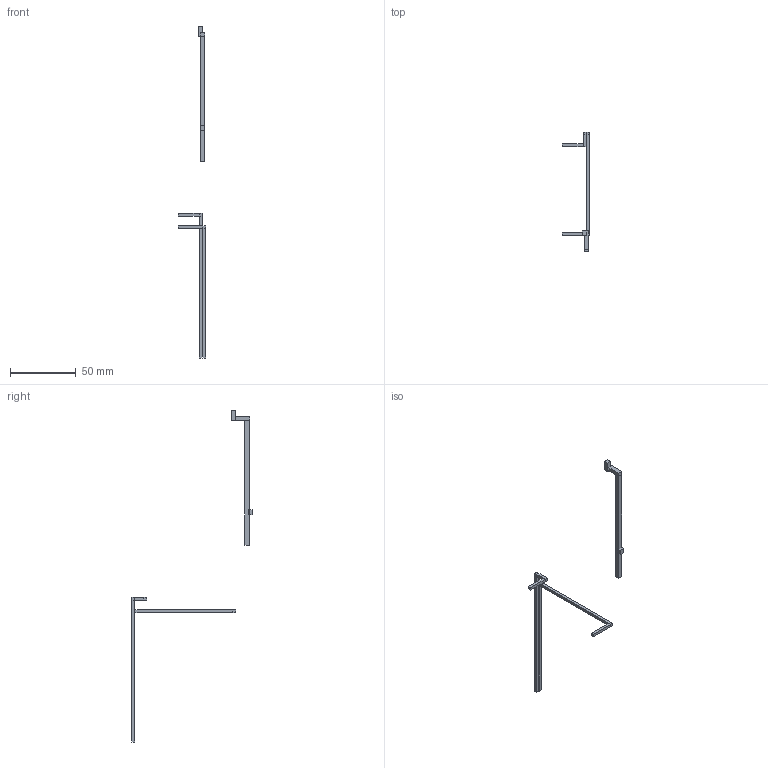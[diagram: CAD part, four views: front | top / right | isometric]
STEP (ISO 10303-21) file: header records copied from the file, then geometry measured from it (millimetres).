
FILE_DESCRIPTION(('Open CASCADE Model'),'2;1');
FILE_NAME('rf_coax','2026-08-12T02:42:46',('Author'),('Open CASCADE'), 'Open CASCADE STEP processor 7.9','build123d','Unknown');
FILE_SCHEMA(('AUTOMOTIVE_DESIGN { 1 0 10303 214 1 1 1 1 }'));
Length unit declared in the file: millimetre
Products named in the file (11): rf_coax; COMPOUND
Assembly tree (10 placements, depth 2):
  rf_coax
    COMPOUND
    COMPOUND
    COMPOUND
    COMPOUND
    COMPOUND
    COMPOUND
    COMPOUND
    COMPOUND
    COMPOUND
    COMPOUND
Bounding box: 20.8 x 91.5 x 253 mm (x, y, z)
Volume: 3075.1 mm3; surface area: 4778.4 mm2
Topology: 10 solids, 10 shells, 60 faces, 120 edges, 80 vertices
Faces by surface type: plane 60
Entity records: 3256 total; most frequent: CARTESIAN_POINT 511, DIRECTION 502, LINE 360, VECTOR 360, ORIENTED_EDGE 240, PCURVE 240, DEFINITIONAL_REPRESENTATION 240, EDGE_CURVE 120
